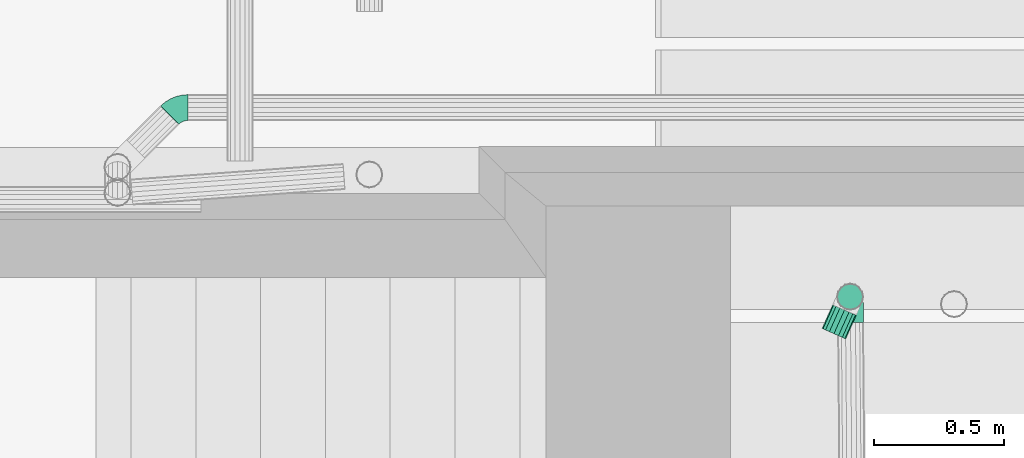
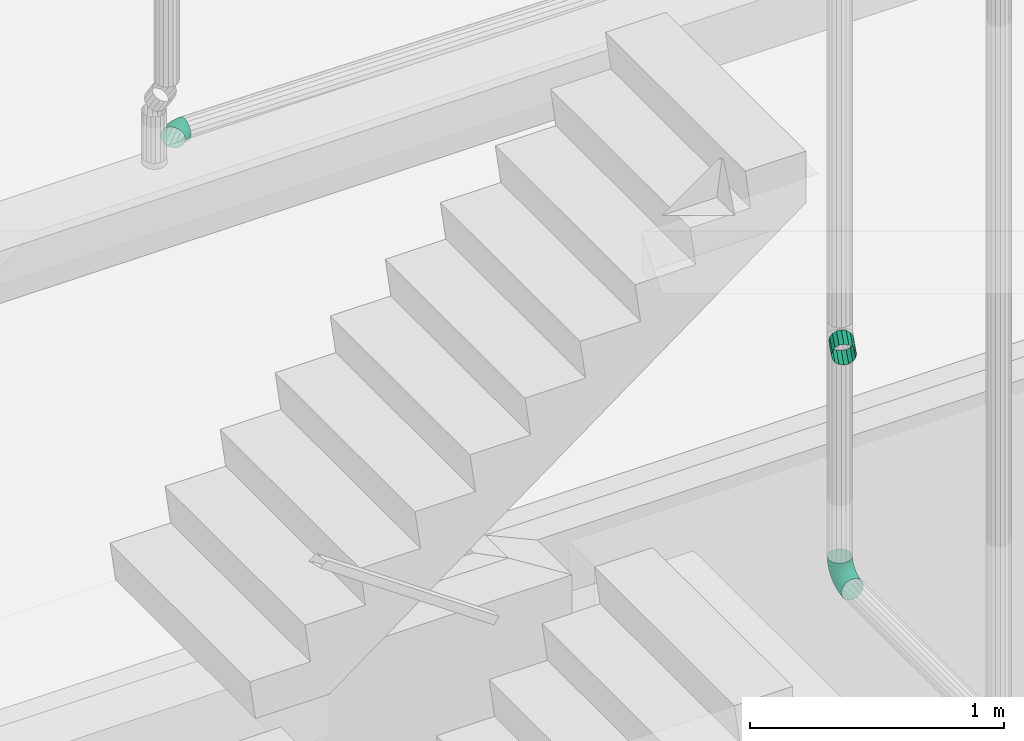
# One storey, part 88 of 108: 2 flow fittings, 1 flow segment.
"""IFC2X3 building model written with IfcOpenShell, lengths in metres."""

from ifc_helpers import new_model, entity, si_unit, converted_unit, derived_unit, money_unit, direction, frame, origin_with_axes, place, context, subcontext, project, spatial, open_shell, faceted_brep, surface_model, material, type_object, element, save


model = new_model("IFC2X3")

# Units and contexts
model_context = context("Model", 3, precision=1e-05, world=origin_with_axes(), true_north=direction((0.0, 1.0)))
body_context = subcontext(model_context, "Body", "Model", "MODEL_VIEW", scale=1.0)
ifc_project = project(units=[si_unit("LENGTHUNIT", "METRE"), si_unit("AREAUNIT", "SQUARE_METRE"), si_unit("VOLUMEUNIT", "CUBIC_METRE"), si_unit("ABSORBEDDOSEUNIT", "GRAY"), si_unit("AMOUNTOFSUBSTANCEUNIT", "MOLE"), si_unit("DOSEEQUIVALENTUNIT", "SIEVERT"), si_unit("ELECTRICCAPACITANCEUNIT", "FARAD"), si_unit("ELECTRICCHARGEUNIT", "COULOMB"), si_unit("ELECTRICCONDUCTANCEUNIT", "SIEMENS"), si_unit("ELECTRICCURRENTUNIT", "AMPERE"), si_unit("ELECTRICRESISTANCEUNIT", "OHM"), si_unit("ELECTRICVOLTAGEUNIT", "VOLT"), si_unit("ENERGYUNIT", "JOULE"), si_unit("FORCEUNIT", "NEWTON"), si_unit("FREQUENCYUNIT", "HERTZ"), si_unit("ILLUMINANCEUNIT", "LUX"), si_unit("INDUCTANCEUNIT", "HENRY"), si_unit("LUMINOUSFLUXUNIT", "LUMEN"), si_unit("LUMINOUSINTENSITYUNIT", "CANDELA"), si_unit("MAGNETICFLUXDENSITYUNIT", "TESLA"), si_unit("MAGNETICFLUXUNIT", "WEBER"), si_unit("MASSUNIT", "GRAM"), converted_unit("PLANEANGLEUNIT", "degree", entity("IfcReal", 0.0174532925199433), si_unit("PLANEANGLEUNIT", "RADIAN"), dimensions=[0, 0, 0, 0, 0, 0, 0]), si_unit("POWERUNIT", "WATT"), si_unit("PRESSUREUNIT", "PASCAL"), si_unit("RADIOACTIVITYUNIT", "BECQUEREL"), si_unit("SOLIDANGLEUNIT", "STERADIAN"), si_unit("THERMODYNAMICTEMPERATUREUNIT", "KELVIN"), si_unit("TIMEUNIT", "SECOND"), derived_unit("ACCELERATIONUNIT", [(si_unit("LENGTHUNIT", "METRE"), 1), (si_unit("TIMEUNIT", "SECOND"), -2)]), derived_unit("ANGULARVELOCITYUNIT", [(converted_unit("PLANEANGLEUNIT", "degree", entity("IfcReal", 0.0174532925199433), si_unit("PLANEANGLEUNIT", "RADIAN"), dimensions=[0, 0, 0, 0, 0, 0, 0]), 1), (si_unit("TIMEUNIT", "SECOND"), -1)]), derived_unit("CURVATUREUNIT", [(converted_unit("PLANEANGLEUNIT", "degree", entity("IfcReal", 0.0174532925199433), si_unit("PLANEANGLEUNIT", "RADIAN"), dimensions=[0, 0, 0, 0, 0, 0, 0]), 1), (si_unit("LENGTHUNIT", "METRE"), -1)]), derived_unit("DYNAMICVISCOSITYUNIT", [(si_unit("PRESSUREUNIT", "PASCAL"), 1), (si_unit("TIMEUNIT", "SECOND"), 1)]), derived_unit("HEATFLUXDENSITYUNIT", [(si_unit("POWERUNIT", "WATT"), 1), (si_unit("LENGTHUNIT", "METRE"), -2)]), derived_unit("HEATINGVALUEUNIT", [(si_unit("ENERGYUNIT", "JOULE"), 1), (si_unit("MASSUNIT", "GRAM"), -1)]), derived_unit("INTEGERCOUNTRATEUNIT", [(si_unit("TIMEUNIT", "SECOND"), -1)]), derived_unit("IONCONCENTRATIONUNIT", [(si_unit("MASSUNIT", "GRAM"), 1), (si_unit("VOLUMEUNIT", "CUBIC_METRE"), -1)]), derived_unit("ISOTHERMALMOISTURECAPACITYUNIT", [(si_unit("VOLUMEUNIT", "CUBIC_METRE"), 1), (si_unit("MASSUNIT", "GRAM"), -1)]), derived_unit("KINEMATICVISCOSITYUNIT", [(si_unit("AREAUNIT", "SQUARE_METRE"), 1), (si_unit("TIMEUNIT", "SECOND"), -1)]), derived_unit("LINEARFORCEUNIT", [(si_unit("FORCEUNIT", "NEWTON"), 1), (si_unit("LENGTHUNIT", "METRE"), -1)]), derived_unit("LINEARMOMENTUNIT", [(si_unit("FORCEUNIT", "NEWTON"), 1), (si_unit("LENGTHUNIT", "METRE"), -1)]), derived_unit("LINEARSTIFFNESSUNIT", [(si_unit("FORCEUNIT", "NEWTON"), 1), (si_unit("LENGTHUNIT", "METRE"), -1)]), derived_unit("LINEARVELOCITYUNIT", [(si_unit("LENGTHUNIT", "METRE"), 1), (si_unit("TIMEUNIT", "SECOND"), -1)]), derived_unit("LUMINOUSINTENSITYDISTRIBUTIONUNIT", [(si_unit("LUMINOUSINTENSITYUNIT", "CANDELA"), 1), (si_unit("LUMINOUSFLUXUNIT", "LUMEN"), -1)]), derived_unit("MASSDENSITYUNIT", [(si_unit("MASSUNIT", "GRAM"), 1), (si_unit("VOLUMEUNIT", "CUBIC_METRE"), -1)]), derived_unit("MASSFLOWRATEUNIT", [(si_unit("MASSUNIT", "GRAM"), 1), (si_unit("TIMEUNIT", "SECOND"), -1)]), derived_unit("MASSPERLENGTHUNIT", [(si_unit("MASSUNIT", "GRAM"), 1), (si_unit("LENGTHUNIT", "METRE"), -1)]), derived_unit("MODULUSOFELASTICITYUNIT", [(si_unit("FORCEUNIT", "NEWTON"), 1), (si_unit("AREAUNIT", "SQUARE_METRE"), -1)]), derived_unit("MODULUSOFLINEARSUBGRADEREACTIONUNIT", [(si_unit("FORCEUNIT", "NEWTON"), 1), (si_unit("LENGTHUNIT", "METRE"), -2)]), derived_unit("MODULUSOFROTATIONALSUBGRADEREACTIONUNIT", [(si_unit("FORCEUNIT", "NEWTON"), 1), (si_unit("LENGTHUNIT", "METRE"), 1)]), derived_unit("MODULUSOFSUBGRADEREACTIONUNIT", [(si_unit("FORCEUNIT", "NEWTON"), 1), (si_unit("VOLUMEUNIT", "CUBIC_METRE"), -1)]), derived_unit("MOISTUREDIFFUSIVITYUNIT", [(si_unit("VOLUMEUNIT", "CUBIC_METRE"), 1), (si_unit("TIMEUNIT", "SECOND"), -1)]), derived_unit("MOLECULARWEIGHTUNIT", [(si_unit("MASSUNIT", "GRAM"), 1), (si_unit("AMOUNTOFSUBSTANCEUNIT", "MOLE"), -1)]), derived_unit("PLANARFORCEUNIT", [(si_unit("FORCEUNIT", "NEWTON"), 1), (si_unit("LENGTHUNIT", "METRE"), -2)]), derived_unit("ROTATIONALFREQUENCYUNIT", [(si_unit("TIMEUNIT", "SECOND"), -1)]), derived_unit("ROTATIONALMASSUNIT", [(si_unit("MASSUNIT", "GRAM"), 1), (si_unit("LENGTHUNIT", "METRE"), 2)]), derived_unit("ROTATIONALSTIFFNESSUNIT", [(si_unit("FORCEUNIT", "NEWTON"), 1), (si_unit("LENGTHUNIT", "METRE"), 1), (converted_unit("PLANEANGLEUNIT", "degree", entity("IfcReal", 0.0174532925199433), si_unit("PLANEANGLEUNIT", "RADIAN"), dimensions=[0, 0, 0, 0, 0, 0, 0]), -1)]), derived_unit("SECTIONAREAINTEGRALUNIT", [(si_unit("LENGTHUNIT", "METRE"), 5)]), derived_unit("SECTIONMODULUSUNIT", [(si_unit("LENGTHUNIT", "METRE"), 3)]), derived_unit("SHEARMODULUSUNIT", [(si_unit("FORCEUNIT", "NEWTON"), 1), (si_unit("AREAUNIT", "SQUARE_METRE"), -1)]), derived_unit("SOUNDPOWERUNIT", [(si_unit("ENERGYUNIT", "JOULE"), 1), (si_unit("TIMEUNIT", "SECOND"), -1)]), derived_unit("SPECIFICHEATCAPACITYUNIT", [(si_unit("FORCEUNIT", "NEWTON"), 1), (si_unit("MASSUNIT", "GRAM"), -1), (si_unit("THERMODYNAMICTEMPERATUREUNIT", "KELVIN"), -1)]), derived_unit("TEMPERATUREGRADIENTUNIT", [(si_unit("THERMODYNAMICTEMPERATUREUNIT", "KELVIN"), 1), (si_unit("LENGTHUNIT", "METRE"), -1)]), derived_unit("THERMALADMITTANCEUNIT", [(si_unit("POWERUNIT", "WATT"), 1), (si_unit("AREAUNIT", "SQUARE_METRE"), -1), (si_unit("THERMODYNAMICTEMPERATUREUNIT", "KELVIN"), -1)]), derived_unit("THERMALCONDUCTANCEUNIT", [(si_unit("POWERUNIT", "WATT"), 1), (si_unit("LENGTHUNIT", "METRE"), -1), (si_unit("THERMODYNAMICTEMPERATUREUNIT", "KELVIN"), -1)]), derived_unit("THERMALEXPANSIONCOEFFICIENTUNIT", [(si_unit("THERMODYNAMICTEMPERATUREUNIT", "KELVIN"), -1)]), derived_unit("THERMALRESISTANCEUNIT", [(si_unit("AREAUNIT", "SQUARE_METRE"), 1), (si_unit("POWERUNIT", "WATT"), -1)]), derived_unit("THERMALTRANSMITTANCEUNIT", [(si_unit("POWERUNIT", "WATT"), 1), (si_unit("AREAUNIT", "SQUARE_METRE"), -1), (si_unit("THERMODYNAMICTEMPERATUREUNIT", "KELVIN"), -1)]), derived_unit("TORQUEUNIT", [(si_unit("FORCEUNIT", "NEWTON"), 1), (si_unit("LENGTHUNIT", "METRE"), 1)]), derived_unit("VAPORPERMEABILITYUNIT", [(si_unit("MASSUNIT", "GRAM"), 1), (si_unit("TIMEUNIT", "SECOND"), -1)]), derived_unit("VOLUMETRICFLOWRATEUNIT", [(si_unit("VOLUMEUNIT", "CUBIC_METRE"), 1), (si_unit("TIMEUNIT", "SECOND"), -1)]), derived_unit("WARPINGCONSTANTUNIT", [(si_unit("LENGTHUNIT", "METRE"), 6)]), derived_unit("WARPINGMOMENTUNIT", [(si_unit("FORCEUNIT", "NEWTON"), 1), (si_unit("LENGTHUNIT", "METRE"), 2)]), money_unit("GBP")], contexts=[model_context])

# Site, building, storey
site_placement = place(None, origin_with_axes())
site = spatial("IfcSite", under=ifc_project, at=site_placement, Name="Site", CompositionType="ELEMENT")
building_placement = place(site_placement, origin_with_axes())
building = spatial("IfcBuilding", under=site, at=building_placement, Name="Building01", CompositionType="ELEMENT")
storey_placement = place(building_placement, origin_with_axes())
storey = spatial("IfcBuildingStorey", under=building, at=storey_placement, Name="GF", CompositionType="ELEMENT", Elevation=0.0)

# Flow segment
ifc_material_1 = material(Name="M_BSUK_Ventilation")
duct_segment_type = type_object("IfcDuctSegmentType", Name="M-RoundDuct", PredefinedType="RIGIDSEGMENT")
flow_segment_placement = place(storey_placement, frame((15.541302, 8.430558, 3.399648), z_axis=(0.0, 0.0, -1.0), x_axis=(0.40708484, 0.91339035, 0.0)))
element("IfcFlowSegment", 1, at=flow_segment_placement, inside=storey, type_object=duct_segment_type, material=ifc_material_1, Name="M-RoundDuct", ObjectType="M-RoundDuct", context=body_context, shape_type="Brep", body=[
    faceted_brep([(0.1, 0.0, -0.05), (0.0, 0.0, -0.05), (0.0, 0.019134, -0.046194), (0.1, 0.019134, -0.046194), (0.0, 0.035355, -0.035355), (0.1, 0.035355, -0.035355), (0.0, 0.046194, -0.019134), (0.1, 0.046194, -0.019134), (0.0, 0.05, 0.0), (0.1, 0.05, 0.0), (0.0, 0.046194, 0.019134), (0.1, 0.046194, 0.019134), (0.0, 0.035355, 0.035355), (0.1, 0.035355, 0.035355), (0.0, 0.019134, 0.046194), (0.1, 0.019134, 0.046194), (0.0, 0.0, 0.05), (0.1, 0.0, 0.05), (0.0, -0.019134, 0.046194), (0.1, -0.019134, 0.046194), (0.0, -0.035355, 0.035355), (0.1, -0.035355, 0.035355), (0.0, -0.046194, 0.019134), (0.1, -0.046194, 0.019134), (0.0, -0.05, 0.0), (0.1, -0.05, 0.0), (0.0, -0.046194, -0.019134), (0.1, -0.046194, -0.019134), (0.0, -0.035355, -0.035355), (0.1, -0.035355, -0.035355), (0.0, -0.019134, -0.046194), (0.1, -0.019134, -0.046194)], [[[0, 1, 2, 3]], [[3, 2, 4, 5]], [[5, 4, 6, 7]], [[7, 6, 8, 9]], [[9, 8, 10, 11]], [[11, 10, 12, 13]], [[13, 12, 14, 15]], [[15, 14, 16, 17]], [[17, 16, 18, 19]], [[19, 18, 20, 21]], [[21, 20, 22, 23]], [[23, 22, 24, 25]], [[25, 24, 26, 27]], [[27, 26, 28, 29]], [[29, 28, 30, 31]], [[31, 30, 1, 0]]]),
])

# Flow fitting
ifc_material_2 = material(Name="M_BSUK_ColdWater")
pipe_fitting_type = type_object("IfcPipeFittingType", Name="M-BmpElbow-DefaultElbow", PredefinedType="BEND")
flow_fitting_1_placement = place(storey_placement, frame((12.979298, 9.273769, 4.82838), z_axis=(-0.70705155, 0.70714306, 0.00517679), x_axis=(0.70705154, 0.70705154, -0.01249902)))
element("IfcFlowFitting", 2, at=flow_fitting_1_placement, inside=storey, type_object=pipe_fitting_type, material=ifc_material_2, Name="M-BmpElbow-DefaultElbow", ObjectType="M-BmpElbow-DefaultElbow", context=body_context, shape_type="SurfaceModel", body=[
    surface_model("IfcShellBasedSurfaceModel", [(0.008111, -0.01349, -0.048784), (0.0, -0.01349, -0.048146), (0.0, 0.0, -0.05), (0.007821, 0.0, -0.050615), (0.016023, -0.01349, -0.050683), (0.01545, 0.0, -0.052447), (0.023539, -0.01349, -0.053797), (0.022698, 0.0, -0.055449), (0.030477, -0.01349, -0.058048), (0.029387, 0.0, -0.059548), (0.036664, -0.01349, -0.063331), (0.035353, 0.0, -0.064642), (0.00896, -0.025979, -0.043426), (0.0, -0.025979, -0.042721), (0.017699, -0.025979, -0.045524), (0.026002, -0.025979, -0.048963), (0.033665, -0.025979, -0.053659), (0.0405, -0.025979, -0.059495), (0.010304, -0.036542, -0.034939), (0.0, -0.036542, -0.034128), (0.020354, -0.036542, -0.037351), (0.029903, -0.036542, -0.041306), (0.038716, -0.036542, -0.046706), (0.046576, -0.036542, -0.053418), (0.012044, -0.044394, -0.023951), (0.0, -0.044394, -0.023003), (0.023791, -0.044394, -0.026771), (0.034953, -0.044394, -0.031394), (0.045254, -0.044394, -0.037706), (0.054441, -0.044394, -0.045552), (0.014051, -0.048954, -0.011279), (0.0, -0.048954, -0.010173), (0.027756, -0.048954, -0.014569), (0.040778, -0.048954, -0.019962), (0.052795, -0.048954, -0.027326), (0.063513, -0.048954, -0.036478), (0.016176, -0.049883, 0.002139), (0.0, -0.049883, 0.003412), (0.031954, -0.049883, -0.001648), (0.046945, -0.049883, -0.007857), (0.06078, -0.049883, -0.016335), (0.073119, -0.049883, -0.026872), (0.018261, -0.047113, 0.015307), (0.0, -0.047113, 0.016744), (0.036073, -0.047113, 0.011031), (0.052997, -0.047113, 0.004022), (0.068616, -0.047113, -0.005549), (0.082545, -0.047113, -0.017444), (0.020152, -0.040848, 0.027248), (0.0, -0.040848, 0.028834), (0.039809, -0.040848, 0.022529), (0.058485, -0.040848, 0.014794), (0.075721, -0.040848, 0.004233), (0.091094, -0.040848, -0.008895), (0.021709, -0.031554, 0.037077), (0.0, -0.031554, 0.038786), (0.042884, -0.031554, 0.031994), (0.063003, -0.031554, 0.023661), (0.08157, -0.031554, 0.012284), (0.09813, -0.031554, -0.001857), (0.022816, -0.01992, 0.044065), (0.0, -0.01992, 0.045861), (0.04507, -0.01992, 0.038723), (0.066214, -0.01992, 0.029965), (0.085729, -0.01992, 0.018008), (0.103132, -0.01992, 0.003146), (0.02339, -0.006808, 0.047694), (0.0, -0.006808, 0.049534), (0.046205, -0.006808, 0.042217), (0.067882, -0.006808, 0.033239), (0.087888, -0.006808, 0.02098), (0.10573, -0.006808, 0.005744), (0.02339, 0.006808, 0.047694), (0.0, 0.006808, 0.049534), (0.046205, 0.006808, 0.042217), (0.067882, 0.006808, 0.033239), (0.087888, 0.006808, 0.02098), (0.10573, 0.006808, 0.005744), (0.022816, 0.01992, 0.044065), (0.0, 0.01992, 0.045861), (0.04507, 0.01992, 0.038723), (0.066214, 0.01992, 0.029965), (0.085729, 0.01992, 0.018008), (0.103132, 0.01992, 0.003146), (0.021709, 0.031554, 0.037077), (0.0, 0.031554, 0.038786), (0.042884, 0.031554, 0.031994), (0.063003, 0.031554, 0.023661), (0.08157, 0.031554, 0.012284), (0.09813, 0.031554, -0.001857), (0.020152, 0.040848, 0.027248), (0.0, 0.040848, 0.028834), (0.039809, 0.040848, 0.022529), (0.058485, 0.040848, 0.014794), (0.075721, 0.040848, 0.004233), (0.091094, 0.040848, -0.008895), (0.018261, 0.047113, 0.015307), (0.0, 0.047113, 0.016744), (0.036073, 0.047113, 0.011031), (0.052997, 0.047113, 0.004022), (0.068616, 0.047113, -0.005549), (0.082545, 0.047113, -0.017444), (0.016176, 0.049883, 0.002139), (0.0, 0.049883, 0.003412), (0.031954, 0.049883, -0.001648), (0.046945, 0.049883, -0.007857), (0.06078, 0.049883, -0.016335), (0.073119, 0.049883, -0.026872), (0.014051, 0.048954, -0.011279), (0.0, 0.048954, -0.010173), (0.027756, 0.048954, -0.014569), (0.040778, 0.048954, -0.019962), (0.052795, 0.048954, -0.027326), (0.063513, 0.048954, -0.036478), (0.012044, 0.044394, -0.023951), (0.0, 0.044394, -0.023003), (0.023791, 0.044394, -0.026771), (0.034953, 0.044394, -0.031394), (0.045254, 0.044394, -0.037706), (0.054441, 0.044394, -0.045552), (0.010304, 0.036542, -0.034939), (0.0, 0.036542, -0.034128), (0.020354, 0.036542, -0.037351), (0.029903, 0.036542, -0.041306), (0.038716, 0.036542, -0.046706), (0.046576, 0.036542, -0.053418), (0.00896, 0.025979, -0.043426), (0.0, 0.025979, -0.042721), (0.017699, 0.025979, -0.045524), (0.026002, 0.025979, -0.048963), (0.033665, 0.025979, -0.053659), (0.0405, 0.025979, -0.059495), (0.008111, 0.01349, -0.048784), (0.0, 0.01349, -0.048146), (0.016023, 0.01349, -0.050683), (0.023539, 0.01349, -0.053797), (0.030477, 0.01349, -0.058048), (0.036664, 0.01349, -0.063331)], [open_shell([[[0, 1, 2, 3]], [[4, 0, 3, 5]], [[6, 4, 5, 7]], [[8, 6, 7, 9]], [[10, 8, 9, 11]], [[12, 13, 1, 0]], [[14, 12, 0, 4]], [[15, 14, 4, 6]], [[16, 15, 6, 8]], [[17, 16, 8, 10]], [[18, 19, 13, 12]], [[20, 18, 12, 14]], [[21, 20, 14, 15]], [[22, 21, 15, 16]], [[23, 22, 16, 17]], [[24, 25, 19, 18]], [[26, 24, 18, 20]], [[27, 26, 20, 21]], [[28, 27, 21, 22]], [[29, 28, 22, 23]], [[30, 31, 25, 24]], [[32, 30, 24, 26]], [[33, 32, 26, 27]], [[34, 33, 27, 28]], [[35, 34, 28, 29]], [[36, 37, 31, 30]], [[38, 36, 30, 32]], [[39, 38, 32, 33]], [[40, 39, 33, 34]], [[41, 40, 34, 35]], [[42, 43, 37, 36]], [[44, 42, 36, 38]], [[45, 44, 38, 39]], [[46, 45, 39, 40]], [[47, 46, 40, 41]], [[48, 49, 43, 42]], [[50, 48, 42, 44]], [[51, 50, 44, 45]], [[52, 51, 45, 46]], [[53, 52, 46, 47]], [[54, 55, 49, 48]], [[56, 54, 48, 50]], [[57, 56, 50, 51]], [[58, 57, 51, 52]], [[59, 58, 52, 53]], [[60, 61, 55, 54]], [[62, 60, 54, 56]], [[63, 62, 56, 57]], [[64, 63, 57, 58]], [[65, 64, 58, 59]], [[66, 67, 61, 60]], [[68, 66, 60, 62]], [[69, 68, 62, 63]], [[70, 69, 63, 64]], [[71, 70, 64, 65]], [[72, 73, 67, 66]], [[74, 72, 66, 68]], [[75, 74, 68, 69]], [[76, 75, 69, 70]], [[77, 76, 70, 71]], [[78, 79, 73, 72]], [[80, 78, 72, 74]], [[81, 80, 74, 75]], [[82, 81, 75, 76]], [[83, 82, 76, 77]], [[84, 85, 79, 78]], [[86, 84, 78, 80]], [[87, 86, 80, 81]], [[88, 87, 81, 82]], [[89, 88, 82, 83]], [[90, 91, 85, 84]], [[92, 90, 84, 86]], [[93, 92, 86, 87]], [[94, 93, 87, 88]], [[95, 94, 88, 89]], [[96, 97, 91, 90]], [[98, 96, 90, 92]], [[99, 98, 92, 93]], [[100, 99, 93, 94]], [[101, 100, 94, 95]], [[102, 103, 97, 96]], [[104, 102, 96, 98]], [[105, 104, 98, 99]], [[106, 105, 99, 100]], [[107, 106, 100, 101]], [[108, 109, 103, 102]], [[110, 108, 102, 104]], [[111, 110, 104, 105]], [[112, 111, 105, 106]], [[113, 112, 106, 107]], [[114, 115, 109, 108]], [[116, 114, 108, 110]], [[117, 116, 110, 111]], [[118, 117, 111, 112]], [[119, 118, 112, 113]], [[120, 121, 115, 114]], [[122, 120, 114, 116]], [[123, 122, 116, 117]], [[124, 123, 117, 118]], [[125, 124, 118, 119]], [[126, 127, 121, 120]], [[128, 126, 120, 122]], [[129, 128, 122, 123]], [[130, 129, 123, 124]], [[131, 130, 124, 125]], [[132, 133, 127, 126]], [[134, 132, 126, 128]], [[135, 134, 128, 129]], [[136, 135, 129, 130]], [[137, 136, 130, 131]], [[3, 2, 133, 132]], [[5, 3, 132, 134]], [[7, 5, 134, 135]], [[9, 7, 135, 136]], [[11, 9, 136, 137]]])]),
])

# Space
space_placement = place(storey_placement, frame((9.419099, 6.725761, 0.0), z_axis=(0.0, 0.0, 1.0), x_axis=(0.0, -1.0, 0.0)))
space = spatial("IfcSpace", under=storey, at=space_placement, Name="ENTRANCE", CompositionType="ELEMENT", InteriorOrExteriorSpace="NOTDEFINED")

# Flow fitting
flow_fitting_2_placement = place(storey_placement, frame((15.604265, 8.57241, 2.325), z_axis=(-0.00898747, 0.99995961, 0.0), x_axis=(0.0, 0.0, -1.0)))
element("IfcFlowFitting", 3, at=flow_fitting_2_placement, inside=space, type_object=pipe_fitting_type, material=ifc_material_2, Name="M-BmpElbow-DefaultElbow", ObjectType="M-BmpElbow-DefaultElbow", context=body_context, shape_type="SurfaceModel", body=[
    surface_model("IfcShellBasedSurfaceModel", [(0.008048, -0.01349, -0.048774), (0.0, -0.01349, -0.048146), (0.0, 0.0, -0.05), (0.00776, 0.0, -0.050606), (0.0159, -0.01349, -0.050644), (0.015332, 0.0, -0.052409), (0.023368, -0.01349, -0.05371), (0.022532, 0.0, -0.055365), (0.030269, -0.01349, -0.057897), (0.029187, 0.0, -0.059403), (0.036437, -0.01349, -0.063105), (0.035134, 0.0, -0.064424), (0.041721, -0.01349, -0.069207), (0.040229, 0.0, -0.070308), (0.045995, -0.01349, -0.076055), (0.04435, 0.0, -0.076912), (0.049154, -0.01349, -0.083484), (0.047396, 0.0, -0.084074), (0.051121, -0.01349, -0.091313), (0.049293, 0.0, -0.091623), (0.05185, -0.01349, -0.099352), (0.049996, 0.0, -0.099375), (0.00889, -0.025979, -0.043415), (0.0, -0.025979, -0.042721), (0.017564, -0.025979, -0.04548), (0.025813, -0.025979, -0.048867), (0.033436, -0.025979, -0.053493), (0.040248, -0.025979, -0.059245), (0.046086, -0.025979, -0.065986), (0.050807, -0.025979, -0.07355), (0.054296, -0.025979, -0.081756), (0.056469, -0.025979, -0.090404), (0.057275, -0.025979, -0.099284), (0.010223, -0.036542, -0.034926), (0.0, -0.036542, -0.034128), (0.020199, -0.036542, -0.037301), (0.029685, -0.036542, -0.041196), (0.038452, -0.036542, -0.046515), (0.046287, -0.036542, -0.053131), (0.053, -0.036542, -0.060883), (0.058429, -0.036542, -0.069582), (0.062442, -0.036542, -0.079019), (0.064941, -0.036542, -0.088964), (0.065867, -0.036542, -0.099177), (0.01195, -0.044394, -0.023936), (0.0, -0.044394, -0.023003), (0.02361, -0.044394, -0.026712), (0.034698, -0.044394, -0.031265), (0.044946, -0.044394, -0.037483), (0.054104, -0.044394, -0.045216), (0.061951, -0.044394, -0.054277), (0.068296, -0.044394, -0.064445), (0.072987, -0.044394, -0.075476), (0.075908, -0.044394, -0.0871), (0.076991, -0.044394, -0.099038), (0.013941, -0.048954, -0.011261), (0.0, -0.048954, -0.010173), (0.027544, -0.048954, -0.0145), (0.04048, -0.048954, -0.019811), (0.052435, -0.048954, -0.027065), (0.063119, -0.048954, -0.036087), (0.072274, -0.048954, -0.046657), (0.079677, -0.048954, -0.058521), (0.085149, -0.048954, -0.071389), (0.088558, -0.048954, -0.084951), (0.08982, -0.048954, -0.098877), (0.01605, -0.049883, 0.002159), (0.0, -0.049883, 0.003412), (0.03171, -0.049883, -0.00157), (0.046602, -0.049883, -0.007684), (0.060365, -0.049883, -0.016035), (0.072665, -0.049883, -0.026421), (0.083204, -0.049883, -0.03859), (0.091727, -0.049883, -0.052247), (0.098026, -0.049883, -0.067062), (0.101951, -0.049883, -0.082675), (0.103404, -0.049883, -0.098707), (0.018119, -0.047113, 0.015329), (0.0, -0.047113, 0.016744), (0.035798, -0.047113, 0.01112), (0.05261, -0.047113, 0.004218), (0.068147, -0.047113, -0.00521), (0.082033, -0.047113, -0.016935), (0.093931, -0.047113, -0.030673), (0.103552, -0.047113, -0.046091), (0.110664, -0.047113, -0.062816), (0.115094, -0.047113, -0.080441), (0.116735, -0.047113, -0.098541), (0.019995, -0.040848, 0.027273), (0.0, -0.040848, 0.028834), (0.039505, -0.040848, 0.022628), (0.058059, -0.040848, 0.01501), (0.075205, -0.040848, 0.004606), (0.090528, -0.040848, -0.008333), (0.103658, -0.040848, -0.023494), (0.114276, -0.040848, -0.040508), (0.122124, -0.040848, -0.058965), (0.127013, -0.040848, -0.078416), (0.128824, -0.040848, -0.09839), (0.021539, -0.031554, 0.037104), (0.0, -0.031554, 0.038786), (0.042557, -0.031554, 0.0321), (0.062543, -0.031554, 0.023894), (0.081014, -0.031554, 0.012686), (0.097521, -0.031554, -0.001252), (0.111665, -0.031554, -0.017584), (0.123103, -0.031554, -0.035913), (0.131557, -0.031554, -0.055795), (0.136824, -0.031554, -0.076749), (0.138775, -0.031554, -0.098265), (0.022638, -0.01992, 0.044093), (0.0, -0.01992, 0.045861), (0.044726, -0.01992, 0.038834), (0.065732, -0.01992, 0.03021), (0.085144, -0.01992, 0.018431), (0.102492, -0.01992, 0.003782), (0.117357, -0.01992, -0.013383), (0.129378, -0.01992, -0.032646), (0.138264, -0.01992, -0.053542), (0.143799, -0.01992, -0.075563), (0.145849, -0.01992, -0.098177), (0.023208, -0.006808, 0.047722), (0.0, -0.006808, 0.049534), (0.045853, -0.006808, 0.042331), (0.067387, -0.006808, 0.03349), (0.087288, -0.006808, 0.021414), (0.105074, -0.006808, 0.006395), (0.120313, -0.006808, -0.011201), (0.132637, -0.006808, -0.03095), (0.141746, -0.006808, -0.052372), (0.147421, -0.006808, -0.074948), (0.149523, -0.006808, -0.098131), (0.023208, 0.006808, 0.047722), (0.0, 0.006808, 0.049534), (0.045853, 0.006808, 0.042331), (0.067387, 0.006808, 0.03349), (0.087288, 0.006808, 0.021414), (0.105074, 0.006808, 0.006395), (0.120313, 0.006808, -0.011201), (0.132637, 0.006808, -0.03095), (0.141746, 0.006808, -0.052372), (0.147421, 0.006808, -0.074948), (0.149523, 0.006808, -0.098131), (0.022638, 0.01992, 0.044093), (0.0, 0.01992, 0.045861), (0.044726, 0.01992, 0.038834), (0.065732, 0.01992, 0.03021), (0.085144, 0.01992, 0.018431), (0.102492, 0.01992, 0.003782), (0.117357, 0.01992, -0.013383), (0.129378, 0.01992, -0.032646), (0.138264, 0.01992, -0.053542), (0.143799, 0.01992, -0.075563), (0.145849, 0.01992, -0.098177), (0.021539, 0.031554, 0.037104), (0.0, 0.031554, 0.038786), (0.042557, 0.031554, 0.0321), (0.062543, 0.031554, 0.023894), (0.081014, 0.031554, 0.012686), (0.097521, 0.031554, -0.001252), (0.111665, 0.031554, -0.017584), (0.123103, 0.031554, -0.035913), (0.131557, 0.031554, -0.055795), (0.136824, 0.031554, -0.076749), (0.138775, 0.031554, -0.098265), (0.019995, 0.040848, 0.027273), (0.0, 0.040848, 0.028834), (0.039505, 0.040848, 0.022628), (0.058059, 0.040848, 0.01501), (0.075205, 0.040848, 0.004606), (0.090528, 0.040848, -0.008333), (0.103658, 0.040848, -0.023494), (0.114276, 0.040848, -0.040508), (0.122124, 0.040848, -0.058965), (0.127013, 0.040848, -0.078416), (0.128824, 0.040848, -0.09839), (0.018119, 0.047113, 0.015329), (0.0, 0.047113, 0.016744), (0.035798, 0.047113, 0.01112), (0.05261, 0.047113, 0.004218), (0.068147, 0.047113, -0.00521), (0.082033, 0.047113, -0.016935), (0.093931, 0.047113, -0.030673), (0.103552, 0.047113, -0.046091), (0.110664, 0.047113, -0.062816), (0.115094, 0.047113, -0.080441), (0.116735, 0.047113, -0.098541), (0.01605, 0.049883, 0.002159), (0.0, 0.049883, 0.003412), (0.03171, 0.049883, -0.00157), (0.046602, 0.049883, -0.007684), (0.060365, 0.049883, -0.016035), (0.072665, 0.049883, -0.026421), (0.083204, 0.049883, -0.03859), (0.091727, 0.049883, -0.052247), (0.098026, 0.049883, -0.067062), (0.101951, 0.049883, -0.082675), (0.103404, 0.049883, -0.098707), (0.013941, 0.048954, -0.011261), (0.0, 0.048954, -0.010173), (0.027544, 0.048954, -0.0145), (0.04048, 0.048954, -0.019811), (0.052435, 0.048954, -0.027065), (0.063119, 0.048954, -0.036087), (0.072274, 0.048954, -0.046657), (0.079677, 0.048954, -0.058521), (0.085149, 0.048954, -0.071389), (0.088558, 0.048954, -0.084951), (0.08982, 0.048954, -0.098877), (0.01195, 0.044394, -0.023936), (0.0, 0.044394, -0.023003), (0.02361, 0.044394, -0.026712), (0.034698, 0.044394, -0.031265), (0.044946, 0.044394, -0.037483), (0.054104, 0.044394, -0.045216), (0.061951, 0.044394, -0.054277), (0.068296, 0.044394, -0.064445), (0.072987, 0.044394, -0.075476), (0.075908, 0.044394, -0.0871), (0.076991, 0.044394, -0.099038), (0.010223, 0.036542, -0.034926), (0.0, 0.036542, -0.034128), (0.020199, 0.036542, -0.037301), (0.029685, 0.036542, -0.041196), (0.038452, 0.036542, -0.046515), (0.046287, 0.036542, -0.053131), (0.053, 0.036542, -0.060883), (0.058429, 0.036542, -0.069582), (0.062442, 0.036542, -0.079019), (0.064941, 0.036542, -0.088964), (0.065867, 0.036542, -0.099177), (0.00889, 0.025979, -0.043415), (0.0, 0.025979, -0.042721), (0.017564, 0.025979, -0.04548), (0.025813, 0.025979, -0.048867), (0.033436, 0.025979, -0.053493), (0.040248, 0.025979, -0.059245), (0.046086, 0.025979, -0.065986), (0.050807, 0.025979, -0.07355), (0.054296, 0.025979, -0.081756), (0.056469, 0.025979, -0.090404), (0.057275, 0.025979, -0.099284), (0.008048, 0.01349, -0.048774), (0.0, 0.01349, -0.048146), (0.0159, 0.01349, -0.050644), (0.023368, 0.01349, -0.05371), (0.030269, 0.01349, -0.057897), (0.036437, 0.01349, -0.063105), (0.041721, 0.01349, -0.069207), (0.045995, 0.01349, -0.076055), (0.049154, 0.01349, -0.083484), (0.051121, 0.01349, -0.091313), (0.05185, 0.01349, -0.099352)], [open_shell([[[0, 1, 2, 3]], [[4, 0, 3, 5]], [[6, 4, 5, 7]], [[8, 6, 7, 9]], [[10, 8, 9, 11]], [[12, 10, 11, 13]], [[14, 12, 13, 15]], [[16, 14, 15, 17]], [[18, 16, 17, 19]], [[20, 18, 19, 21]], [[22, 23, 1, 0]], [[24, 22, 0, 4]], [[25, 24, 4, 6]], [[26, 25, 6, 8]], [[27, 26, 8, 10]], [[28, 27, 10, 12]], [[29, 28, 12, 14]], [[30, 29, 14, 16]], [[31, 30, 16, 18]], [[32, 31, 18, 20]], [[33, 34, 23, 22]], [[35, 33, 22, 24]], [[36, 35, 24, 25]], [[37, 36, 25, 26]], [[38, 37, 26, 27]], [[39, 38, 27, 28]], [[40, 39, 28, 29]], [[41, 40, 29, 30]], [[42, 41, 30, 31]], [[43, 42, 31, 32]], [[44, 45, 34, 33]], [[46, 44, 33, 35]], [[47, 46, 35, 36]], [[48, 47, 36, 37]], [[49, 48, 37, 38]], [[50, 49, 38, 39]], [[51, 50, 39, 40]], [[52, 51, 40, 41]], [[53, 52, 41, 42]], [[54, 53, 42, 43]], [[55, 56, 45, 44]], [[57, 55, 44, 46]], [[58, 57, 46, 47]], [[59, 58, 47, 48]], [[60, 59, 48, 49]], [[61, 60, 49, 50]], [[62, 61, 50, 51]], [[63, 62, 51, 52]], [[64, 63, 52, 53]], [[65, 64, 53, 54]], [[66, 67, 56, 55]], [[68, 66, 55, 57]], [[69, 68, 57, 58]], [[70, 69, 58, 59]], [[71, 70, 59, 60]], [[72, 71, 60, 61]], [[73, 72, 61, 62]], [[74, 73, 62, 63]], [[75, 74, 63, 64]], [[76, 75, 64, 65]], [[77, 78, 67, 66]], [[79, 77, 66, 68]], [[80, 79, 68, 69]], [[81, 80, 69, 70]], [[82, 81, 70, 71]], [[83, 82, 71, 72]], [[84, 83, 72, 73]], [[85, 84, 73, 74]], [[86, 85, 74, 75]], [[87, 86, 75, 76]], [[88, 89, 78, 77]], [[90, 88, 77, 79]], [[91, 90, 79, 80]], [[92, 91, 80, 81]], [[93, 92, 81, 82]], [[94, 93, 82, 83]], [[95, 94, 83, 84]], [[96, 95, 84, 85]], [[97, 96, 85, 86]], [[98, 97, 86, 87]], [[99, 100, 89, 88]], [[101, 99, 88, 90]], [[102, 101, 90, 91]], [[103, 102, 91, 92]], [[104, 103, 92, 93]], [[105, 104, 93, 94]], [[106, 105, 94, 95]], [[107, 106, 95, 96]], [[108, 107, 96, 97]], [[109, 108, 97, 98]], [[110, 111, 100, 99]], [[112, 110, 99, 101]], [[113, 112, 101, 102]], [[114, 113, 102, 103]], [[115, 114, 103, 104]], [[116, 115, 104, 105]], [[117, 116, 105, 106]], [[118, 117, 106, 107]], [[119, 118, 107, 108]], [[120, 119, 108, 109]], [[121, 122, 111, 110]], [[123, 121, 110, 112]], [[124, 123, 112, 113]], [[125, 124, 113, 114]], [[126, 125, 114, 115]], [[127, 126, 115, 116]], [[128, 127, 116, 117]], [[129, 128, 117, 118]], [[130, 129, 118, 119]], [[131, 130, 119, 120]], [[132, 133, 122, 121]], [[134, 132, 121, 123]], [[135, 134, 123, 124]], [[136, 135, 124, 125]], [[137, 136, 125, 126]], [[138, 137, 126, 127]], [[139, 138, 127, 128]], [[140, 139, 128, 129]], [[141, 140, 129, 130]], [[142, 141, 130, 131]], [[143, 144, 133, 132]], [[145, 143, 132, 134]], [[146, 145, 134, 135]], [[147, 146, 135, 136]], [[148, 147, 136, 137]], [[149, 148, 137, 138]], [[150, 149, 138, 139]], [[151, 150, 139, 140]], [[152, 151, 140, 141]], [[153, 152, 141, 142]], [[154, 155, 144, 143]], [[156, 154, 143, 145]], [[157, 156, 145, 146]], [[158, 157, 146, 147]], [[159, 158, 147, 148]], [[160, 159, 148, 149]], [[161, 160, 149, 150]], [[162, 161, 150, 151]], [[163, 162, 151, 152]], [[164, 163, 152, 153]], [[165, 166, 155, 154]], [[167, 165, 154, 156]], [[168, 167, 156, 157]], [[169, 168, 157, 158]], [[170, 169, 158, 159]], [[171, 170, 159, 160]], [[172, 171, 160, 161]], [[173, 172, 161, 162]], [[174, 173, 162, 163]], [[175, 174, 163, 164]], [[176, 177, 166, 165]], [[178, 176, 165, 167]], [[179, 178, 167, 168]], [[180, 179, 168, 169]], [[181, 180, 169, 170]], [[182, 181, 170, 171]], [[183, 182, 171, 172]], [[184, 183, 172, 173]], [[185, 184, 173, 174]], [[186, 185, 174, 175]], [[187, 188, 177, 176]], [[189, 187, 176, 178]], [[190, 189, 178, 179]], [[191, 190, 179, 180]], [[192, 191, 180, 181]], [[193, 192, 181, 182]], [[194, 193, 182, 183]], [[195, 194, 183, 184]], [[196, 195, 184, 185]], [[197, 196, 185, 186]], [[198, 199, 188, 187]], [[200, 198, 187, 189]], [[201, 200, 189, 190]], [[202, 201, 190, 191]], [[203, 202, 191, 192]], [[204, 203, 192, 193]], [[205, 204, 193, 194]], [[206, 205, 194, 195]], [[207, 206, 195, 196]], [[208, 207, 196, 197]], [[209, 210, 199, 198]], [[211, 209, 198, 200]], [[212, 211, 200, 201]], [[213, 212, 201, 202]], [[214, 213, 202, 203]], [[215, 214, 203, 204]], [[216, 215, 204, 205]], [[217, 216, 205, 206]], [[218, 217, 206, 207]], [[219, 218, 207, 208]], [[220, 221, 210, 209]], [[222, 220, 209, 211]], [[223, 222, 211, 212]], [[224, 223, 212, 213]], [[225, 224, 213, 214]], [[226, 225, 214, 215]], [[227, 226, 215, 216]], [[228, 227, 216, 217]], [[229, 228, 217, 218]], [[230, 229, 218, 219]], [[231, 232, 221, 220]], [[233, 231, 220, 222]], [[234, 233, 222, 223]], [[235, 234, 223, 224]], [[236, 235, 224, 225]], [[237, 236, 225, 226]], [[238, 237, 226, 227]], [[239, 238, 227, 228]], [[240, 239, 228, 229]], [[241, 240, 229, 230]], [[242, 243, 232, 231]], [[244, 242, 231, 233]], [[245, 244, 233, 234]], [[246, 245, 234, 235]], [[247, 246, 235, 236]], [[248, 247, 236, 237]], [[249, 248, 237, 238]], [[250, 249, 238, 239]], [[251, 250, 239, 240]], [[252, 251, 240, 241]], [[3, 2, 243, 242]], [[5, 3, 242, 244]], [[7, 5, 244, 245]], [[9, 7, 245, 246]], [[11, 9, 246, 247]], [[13, 11, 247, 248]], [[15, 13, 248, 249]], [[17, 15, 249, 250]], [[19, 17, 250, 251]], [[21, 19, 251, 252]]])]),
])

save(model, "model.ifc")
